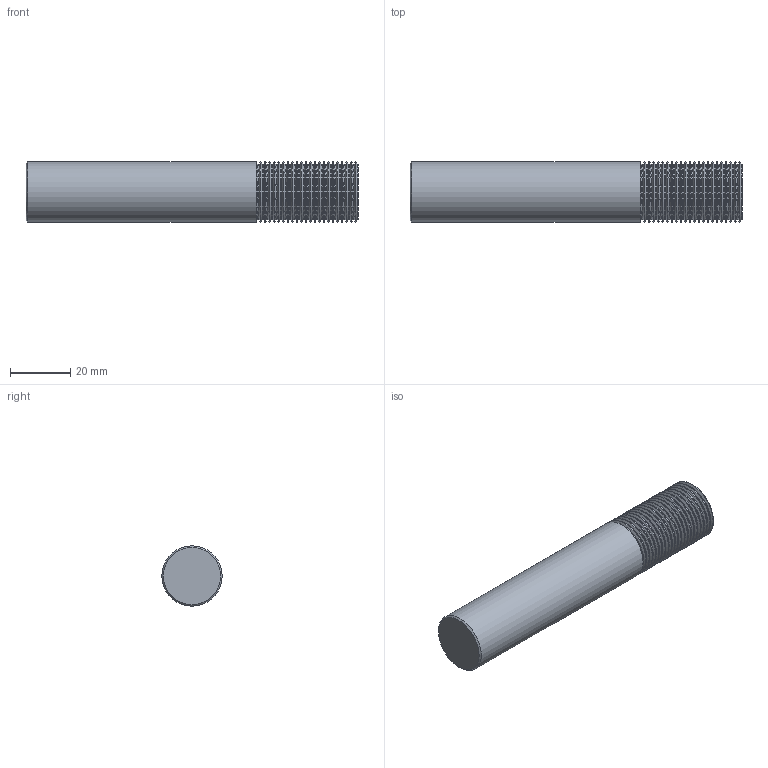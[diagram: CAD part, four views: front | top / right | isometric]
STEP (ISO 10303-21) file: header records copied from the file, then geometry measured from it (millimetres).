
FILE_DESCRIPTION(/* description */ (''),/* implementation_level */ '2;1');
FILE_NAME(/* name */ '00035657-TDM',/* time_stamp */ '2024-02-13T14:41:34+01:00',/* author */ (''),/* organization */ (''),/* preprocessor_version */ 'ST-DEVELOPER v16.5',/* originating_system */ 'HiCAD 2017 2201.0 Build 268',/* authorisation */ '');
FILE_SCHEMA (('AUTOMOTIVE_DESIGN { 1 0 10303 214 1 1 1 1 }'));
Length unit declared in the file: millimetre
Products named in the file (3): Root; ROTATIONSTEIL_0
Assembly tree (2 placements, depth 3):
  Root
    ROTATIONSTEIL_0
      ROTATIONSTEIL_0
Bounding box: 110 x 20 x 20 mm (x, y, z)
Volume: 33516.2 mm3; surface area: 9092.7 mm2
Topology: 2 solids, 2 shells, 142 faces, 280 edges, 142 vertices
Faces by surface type: cylinder 47, cone 46, torus 45, plane 4
Full cylindrical faces by diameter (mm): 18.344 x24, 19.95 x22, 20 x1
Entity records: 4284 total; most frequent: DIRECTION 572, CARTESIAN_POINT 426, AXIS2_PLACEMENT_3D 286, PRESENTATION_STYLE_ASSIGNMENT 282, COLOUR_RGB 282, DRAUGHTING_PRE_DEFINED_CURVE_FONT 280, CURVE_STYLE 280, OVER_RIDING_STYLED_ITEM 280
